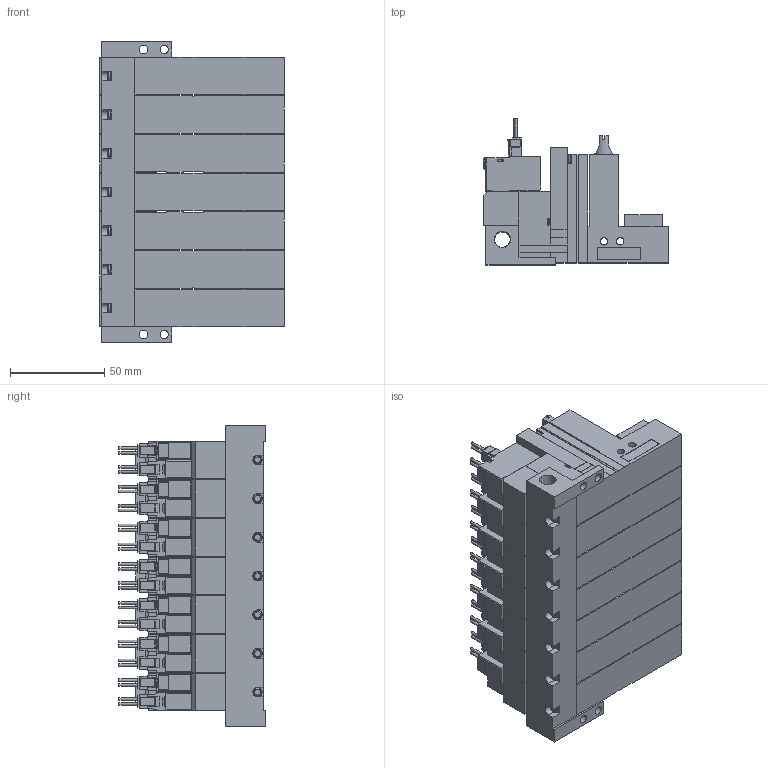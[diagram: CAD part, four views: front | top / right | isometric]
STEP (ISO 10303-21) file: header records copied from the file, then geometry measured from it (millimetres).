
FILE_DESCRIPTION(('STEP AP203'),'1');
FILE_NAME('ZLC5ALR707.stp','2025-02-25T02:07:33',(' '),(' '),'Spatial InterOp 3D',' ',' ');
FILE_SCHEMA(('CONFIG_CONTROL_DESIGN'));
Length unit declared in the file: millimetre
Products named in the file (5): BMC22M※※※※ZLC5ALR707; Solenoid valve A; Pressure sensor ZLC; Unit LC; Base MR70R
Assembly tree (22 placements, depth 2):
  BMC22M※※※※ZLC5ALR707
    Solenoid valve A  x7
    Pressure sensor ZLC  x7
    Unit LC  x7
    Base MR70R
Bounding box: 97.6 x 77.45 x 159 mm (x, y, z)
Volume: 628820.2 mm3; surface area: 166399.1 mm2
Topology: 22 solids, 22 shells, 2695 faces, 7311 edges, 4793 vertices
Faces by surface type: plane 2324, cylinder 285, cone 51, torus 35
Full cylindrical faces by diameter (mm): 1.4 x28, 2.5 x7, 3 x28, 3.5 x28, 3.6 x7, 4 x14, 4.134 x7, 4.5 x4, 5.2 x7, 6 x7, 6.6 x7, 8.279 x1
Entity records: 15548 total; most frequent: CARTESIAN_POINT 3033, DIRECTION 2467, ORIENTED_EDGE 2410, EDGE_CURVE 1205, LINE 973, VECTOR 973, VERTEX_POINT 842, AXIS2_PLACEMENT_3D 747
